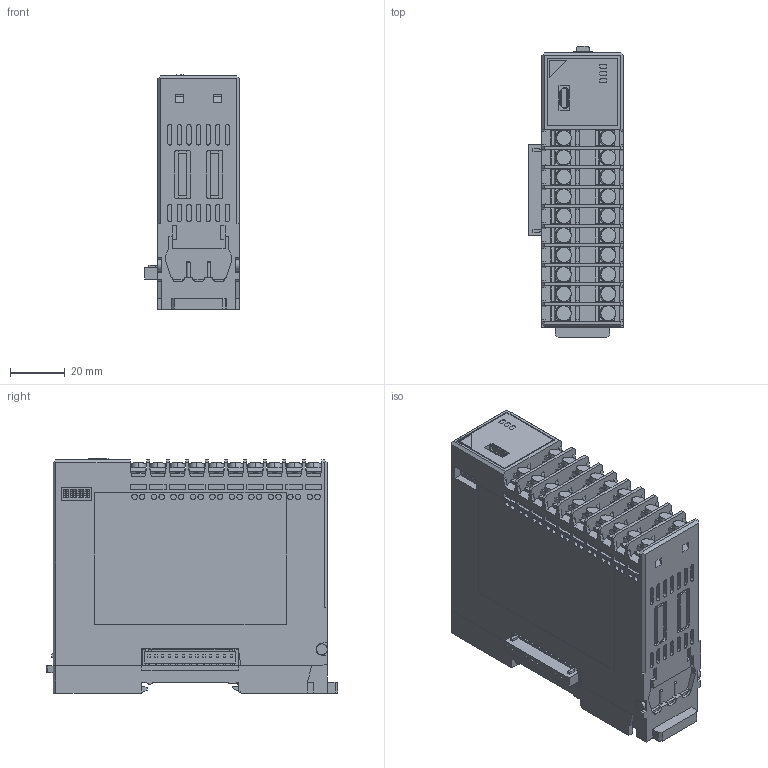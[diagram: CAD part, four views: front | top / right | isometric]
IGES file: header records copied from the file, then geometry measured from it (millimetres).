
Start section: SolidWorks IGES file using analytic representation for surfaces
Global section: file name: D:\KK\CAD_DATA\Q\Q僔儕乕僘\QAM2\D25-027\HP_3D\QAM2-4T_IGES\QAM2-4T_260721.IGS; native system: SolidWorks 2025; preprocessor: SolidWorks 2025; author: kawahara; date: 260722.100058; units: millimetre
Bounding box: 34.6 x 106.3 x 85.46 mm (x, y, z)
Surface area: 42105.5 mm2 (no closed solid volume)
Topology: 0 solids, 0 shells, 1854 faces, 15778 edges, 15776 vertices
Faces by surface type: bspline 1497, revolution 357
